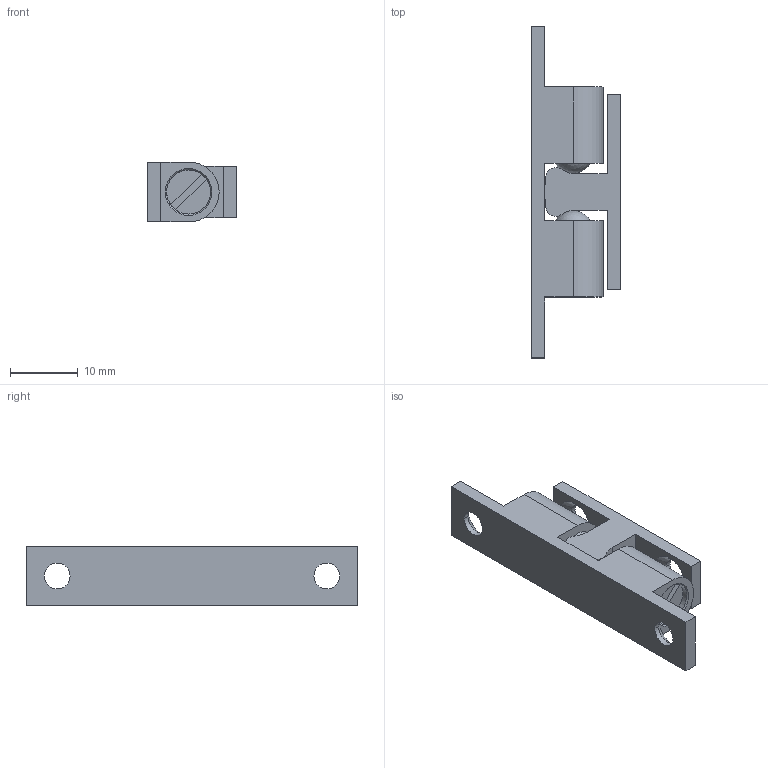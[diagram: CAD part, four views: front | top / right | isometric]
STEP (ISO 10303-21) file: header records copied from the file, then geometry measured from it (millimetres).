
FILE_DESCRIPTION(('STEP AP242'),'1');
FILE_NAME('fath_0930462.stp','2021-04-01T08:26:43',('TraceParts'),('TraceParts S.A.'),'Spatial InterOp 3D',' ',' ');
FILE_SCHEMA(('AP242_MANAGED_MODEL_BASED_3D_ENGINEERING_MIM_LF {1 0 10303 442 1 1 4}'));
Length unit declared in the file: millimetre
Products named in the file (1): fath_0930462_1
Bounding box: 13.2 x 49 x 8.8 mm (x, y, z)
Volume: 2952.2 mm3; surface area: 2959.2 mm2
Topology: 4 solids, 4 shells, 81 faces, 215 edges, 138 vertices
Faces by surface type: plane 35, cylinder 26, cone 12, sphere 8
Entity records: 2574 total; most frequent: DIRECTION 473, CARTESIAN_POINT 430, ORIENTED_EDGE 414, EDGE_CURVE 207, AXIS2_PLACEMENT_3D 181, VERTEX_POINT 138, LINE 111, VECTOR 111
